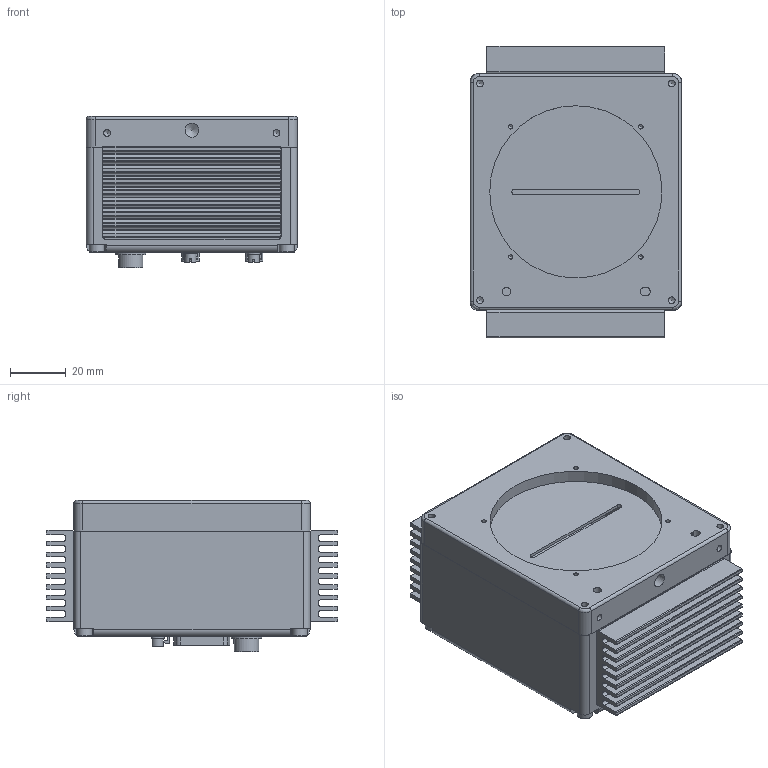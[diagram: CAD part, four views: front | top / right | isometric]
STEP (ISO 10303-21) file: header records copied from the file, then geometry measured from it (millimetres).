
FILE_DESCRIPTION((''),'2;1');
FILE_NAME('J:\MECH_ENG\PROJECTS\Leprechaun\MAJ_Leprechaun\Output\For Customer\Germany Request - Step file of 2k 4k cameras\LEPRECHAUN Camera Assembly 2k-4k step.stp','2008-03-28T14:41:05',('javed'),(''),'Autodesk Inventor 11','Autodesk Inventor 11','');
FILE_SCHEMA(('AUTOMOTIVE_DESIGN { 1 0 10303 214 1 1 1 1 }'));
Length unit declared in the file: millimetre
Products named in the file (15): LEPRECHAUN Camera Assy (MAJ); 03-006-20005-05 PN 60-00091-02-R Leprechaun Heatsink-Try00; 03-006-20100-06 PN 60-00139-05-R P2-Slim Rear Cover; Forged Socket Head Cap Screw (Regular Thread - Metric) M3x0.5 x 35; 60-00090-00-R Leprechaun Front Plate; j__docs_pre_pre_prod_03-13 artworks_00954-00 leprechaun interface board 59-gx-t413x-00-r_t413x-28.emn (MAJ); j__docs_pre_pre_prod_03-13 artworks_00954-00 leprechaun interface board 59-gx-t413x-00-r_t413x-28; Connector-MDR26-SMT; 55-00-00600-0000 Hirose Connector; HIROSE NUT; HIROSE WASHER; Light_pipe; 63-00-00008-000000 M2.5 MDR Screw; SERIAL LABEL; Dalsa Label
Assembly tree (21 placements, depth 3):
  LEPRECHAUN Camera Assy (MAJ)
    03-006-20005-05 PN 60-00091-02-R Leprechaun Heatsink-Try00
    03-006-20100-06 PN 60-00139-05-R P2-Slim Rear Cover
    Forged Socket Head Cap Screw (Regular Thread - Metric) M3x0.5 x 35  x4
    60-00090-00-R Leprechaun Front Plate
    j__docs_pre_pre_prod_03-13 artworks_00954-00 leprechaun interface board 59-gx-t413x-00-r_t413x-28.emn (MAJ)
      j__docs_pre_pre_prod_03-13 artworks_00954-00 leprechaun interface board 59-gx-t413x-00-r_t413x-28
      Connector-MDR26-SMT  x2
    55-00-00600-0000 Hirose Connector
    HIROSE NUT
    HIROSE WASHER
    Light_pipe
    63-00-00008-000000 M2.5 MDR Screw  x4
    SERIAL LABEL
    Dalsa Label
Bounding box: 76.11 x 105 x 54.45 mm (x, y, z)
Volume: 134938.4 mm3; surface area: 110920 mm2
Topology: 20 solids, 20 shells, 2768 faces, 7297 edges, 4845 vertices
Faces by surface type: plane 2120, cylinder 359, bspline 244, cone 37, torus 8
Full cylindrical faces by diameter (mm): 0.45 x2, 0.5 x6, 0.6 x2, 2.013 x8, 2.1 x4, 2.2 x4, 2.36 x4, 2.459 x10, 2.8 x4, 3 x7, 3.2 x1, 3.4 x4, 3.5 x4, 4.04 x4, 4.72 x4, 5.5 x5, 7.3 x2, 7.8 x1, 8.5 x1, 8.78 x1, 10.95 x1, 10.97 x1, 11.2 x1, 62 x1
Entity records: 74635 total; most frequent: CARTESIAN_POINT 16468, ORIENTED_EDGE 12252, DIRECTION 10916, EDGE_CURVE 6126, VECTOR 5004, LINE 5004, VERTEX_POINT 4136, AXIS2_PLACEMENT_3D 2956
